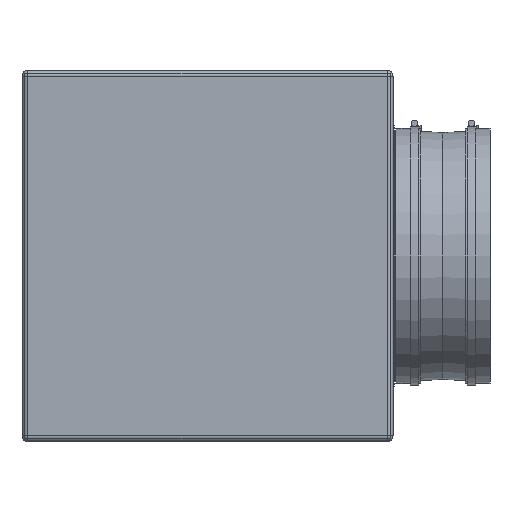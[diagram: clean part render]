
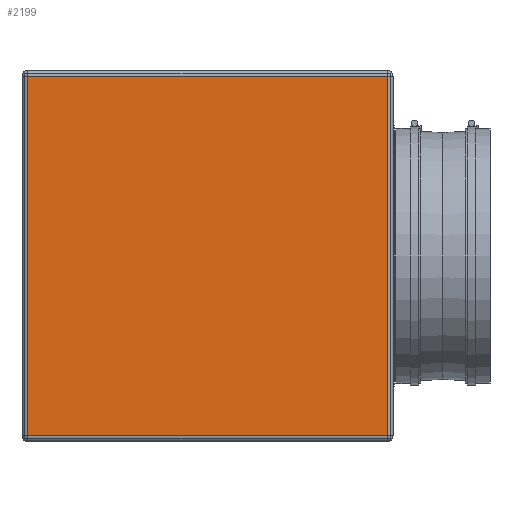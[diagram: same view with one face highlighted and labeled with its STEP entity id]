
A CAD part, left-side view. The second image highlights one B-rep face of the part: STEP entity #2199.
In plain terms, the highlighted planar face has unit normal (-1, 0, 0).
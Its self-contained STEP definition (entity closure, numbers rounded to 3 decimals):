
#112=PLANE('',#2390);
#167=LINE('',#3394,#303);
#170=LINE('',#3427,#306);
#173=LINE('',#3431,#309);
#189=LINE('',#3469,#325);
#303=VECTOR('',#2664,10.);
#306=VECTOR('',#2703,10.);
#309=VECTOR('',#2708,10.);
#325=VECTOR('',#2756,10.);
#507=FACE_OUTER_BOUND('',#646,.T.);
#646=EDGE_LOOP('',(#1598,#1599,#1600,#1601));
#972=VERTEX_POINT('',#3382);
#973=VERTEX_POINT('',#3386);
#976=VERTEX_POINT('',#3396);
#987=VERTEX_POINT('',#3423);
#1201=EDGE_CURVE('',#973,#972,#167,.T.);
#1216=EDGE_CURVE('',#976,#987,#170,.T.);
#1219=EDGE_CURVE('',#987,#973,#173,.T.);
#1241=EDGE_CURVE('',#972,#976,#189,.T.);
#1598=ORIENTED_EDGE('',*,*,#1216,.F.);
#1599=ORIENTED_EDGE('',*,*,#1241,.F.);
#1600=ORIENTED_EDGE('',*,*,#1201,.F.);
#1601=ORIENTED_EDGE('',*,*,#1219,.F.);
#2199=ADVANCED_FACE('',(#507),#112,.T.);
#2390=AXIS2_PLACEMENT_3D('',#3471,#2759,#2760);
#2664=DIRECTION('',(0.,1.,0.));
#2703=DIRECTION('',(0.,-1.,0.));
#2708=DIRECTION('',(0.,0.,-1.));
#2756=DIRECTION('',(0.,0.,1.));
#2759=DIRECTION('center_axis',(-1.,0.,0.));
#2760=DIRECTION('ref_axis',(0.,0.,1.));
#3382=CARTESIAN_POINT('',(-335.,325.,-325.));
#3386=CARTESIAN_POINT('',(-335.,-325.,-325.));
#3394=CARTESIAN_POINT('',(-335.,0.,-325.));
#3396=CARTESIAN_POINT('',(-335.,325.,325.));
#3423=CARTESIAN_POINT('',(-335.,-325.,325.));
#3427=CARTESIAN_POINT('',(-335.,0.,325.));
#3431=CARTESIAN_POINT('',(-335.,-325.,-167.5));
#3469=CARTESIAN_POINT('',(-335.,325.,-167.5));
#3471=CARTESIAN_POINT('Origin',(-335.,0.,-335.));
